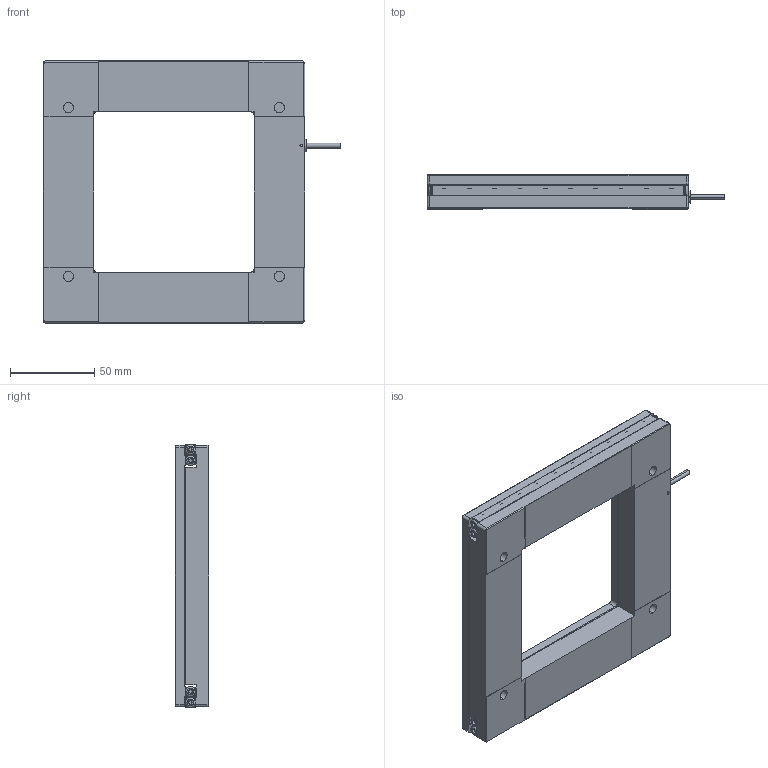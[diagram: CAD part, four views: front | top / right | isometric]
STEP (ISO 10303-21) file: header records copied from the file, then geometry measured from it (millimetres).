
FILE_DESCRIPTION (( 'STEP AP203' ), '1' );
FILE_NAME ('N52.24.03.22潠趙-珨峎.STEP', '2024-03-22T00:34:58', ( 'User' ), ( 'China' ), 'SwSTEP 2.0', 'SolidWorks 2016', '' );
FILE_SCHEMA (( 'CONFIG_CONTROL_DESIGN' ));
Length unit declared in the file: millimetre
Products named in the file (1): N52.24.03.22潠趙-珨峎
Bounding box: 176.5 x 20 x 155.9 mm (x, y, z)
Surface area: 87329.4 mm2 (no closed solid volume)
Topology: 0 solids, 26 shells, 373 faces, 1085 edges, 759 vertices
Faces by surface type: plane 197, cylinder 138, cone 22, torus 16
Entity records: 12663 total; most frequent: CARTESIAN_POINT 2302, DIRECTION 2258, ORIENTED_EDGE 1939, EDGE_CURVE 1085, AXIS2_PLACEMENT_3D 815, VERTEX_POINT 759, LINE 628, VECTOR 628
